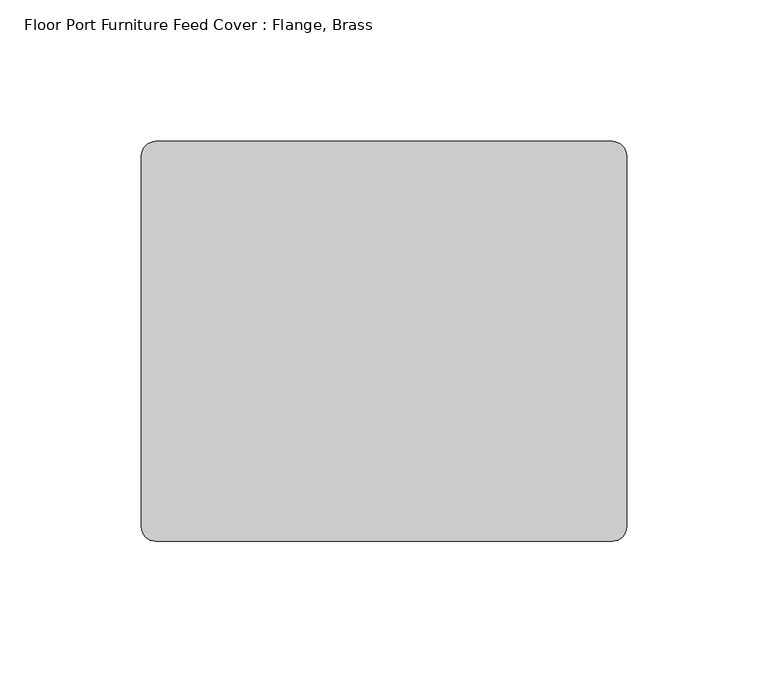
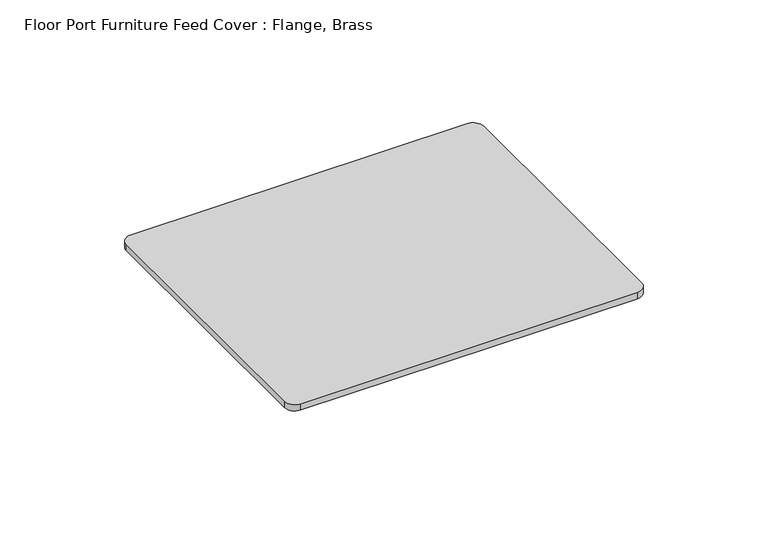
"""IFC4 building model written with IfcOpenShell, lengths in millimetres: proxy geometry, Floor Port Furniture Feed Cover : Flange, Brass."""

from ifc_helpers import new_model, si_unit, point, frame_2d, origin, origin_with_axes, place, context, project, spatial, polyline, circle_curve, trimmed, segment, composite_curve, outline, extrude, source, transform, mapped, element, save


def floor_port_furniture_feed_cover_flange_brass_e7a625f1(model_context):
    return source(origin(), model_context, "Body", "SweptSolid", [
        extrude(outline(composite_curve([segment(trimmed(circle_curve(frame_2d((80.645, -65.5701)), 5.08), [point((85.725, -65.5701))], [point((80.645, -70.6501))], False, "CARTESIAN"), True, "CONTINUOUS"), segment(polyline([(80.645, -70.6501), (-80.645, -70.6501)]), True, "CONTINUOUS"), segment(trimmed(circle_curve(frame_2d((-80.645, -65.5701)), 5.08), [point((-80.645, -70.6501))], [point((-85.725, -65.5701))], False, "CARTESIAN"), True, "CONTINUOUS"), segment(polyline([(-85.725, -65.5701), (-85.725, 65.5701)]), True, "CONTINUOUS"), segment(trimmed(circle_curve(frame_2d((-80.645, 65.5701)), 5.08), [point((-85.725, 65.5701))], [point((-80.645, 70.6501))], False, "CARTESIAN"), True, "CONTINUOUS"), segment(polyline([(-80.645, 70.6501), (80.645, 70.6501)]), True, "CONTINUOUS"), segment(trimmed(circle_curve(frame_2d((80.645, 65.5701)), 5.08), [point((80.645, 70.6501))], [point((85.725, 65.5701))], False, "CARTESIAN"), True, "CONTINUOUS"), segment(polyline([(85.725, 65.5701), (85.725, -65.5701)]), True, "CONTINUOUS")], self_intersect=False)), origin_with_axes(), (0.0, 0.0, 1.0), 3.175),
    ])


if __name__ == "__main__":
    model = new_model("IFC4")
    model_context = context("Model", 3, world=origin())
    ifc_project = project(units=[si_unit("LENGTHUNIT", "METRE", prefix="MILLI")], contexts=[model_context])
    site = spatial("IfcSite", under=ifc_project)
    building = spatial("IfcBuilding", under=site)
    placement = place(None, origin())
    floor_port_furniture_feed_cover_flange_brass_shape = floor_port_furniture_feed_cover_flange_brass_e7a625f1(model_context)
    element("IfcBuildingElementProxy", 1, Name="Floor Port Furniture Feed Cover : Flange, Brass", ObjectType="Floor Port Furniture Feed Cover : Flange, Brass", at=placement, inside=building, context=model_context, shape_type="MappedRepresentation", body=[
        mapped(floor_port_furniture_feed_cover_flange_brass_shape, transform((0.0, 0.0, 0.0), x_axis=(1.0, 0.0, 0.0), y_axis=(0.0, 1.0, 0.0), z_axis=(0.0, 0.0, 1.0))),
    ])
    save(model, "model.ifc")
